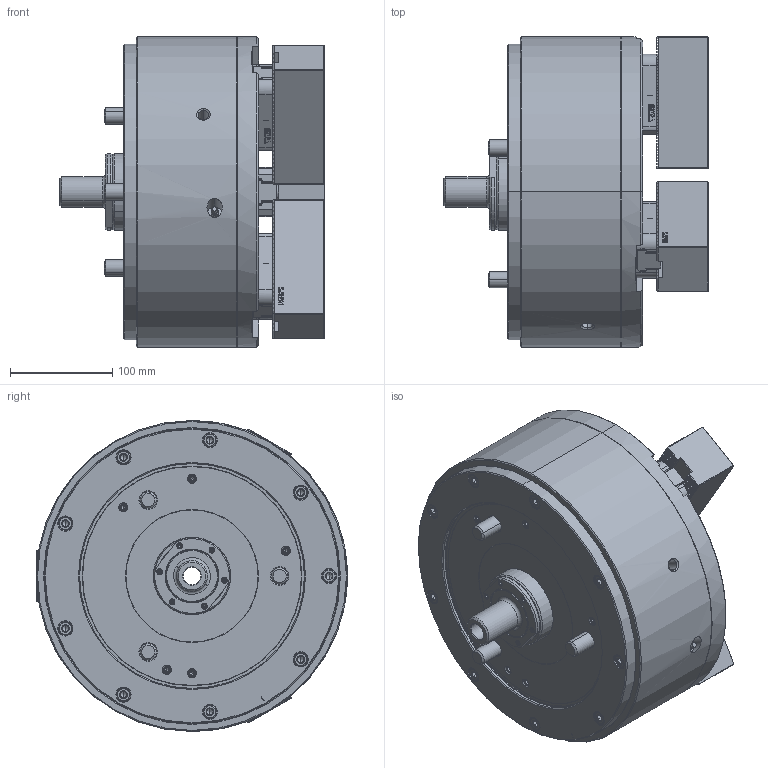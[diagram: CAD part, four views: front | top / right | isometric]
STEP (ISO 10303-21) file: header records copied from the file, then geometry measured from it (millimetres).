
FILE_DESCRIPTION (( 'STEP AP214' ), '1' );
FILE_NAME ('DL212_UC.STEP', '2022-09-08T03:11:17', ( '' ), ( '' ), 'SwSTEP 2.0', 'SolidWorks 2020', '' );
FILE_SCHEMA (( 'AUTOMOTIVE_DESIGN' ));
Length unit declared in the file: millimetre
Products named in the file (5): 61P458879; 結合DL212_UC^DL212; DL212_UC; 61P851659; 0030114040
Assembly tree (13 placements, depth 2):
  DL212_UC
    61P851659  x3
    61P458879  x3
    0030114040  x6
    結合DL212_UC^DL212
Bounding box: 258.3 x 304 x 304 mm (x, y, z)
Volume: 10122913.8 mm3; surface area: 599072.8 mm2
Topology: 13 solids, 60 shells, 6734 faces, 18528 edges, 12047 vertices
Faces by surface type: plane 4397, cylinder 888, cone 764, bspline 663, torus 22
Entity records: 186948 total; most frequent: CARTESIAN_POINT 61456, ORIENTED_EDGE 28192, DIRECTION 22438, EDGE_CURVE 14096, VECTOR 9762, LINE 9762, VERTEX_POINT 9236, AXIS2_PLACEMENT_3D 6338
